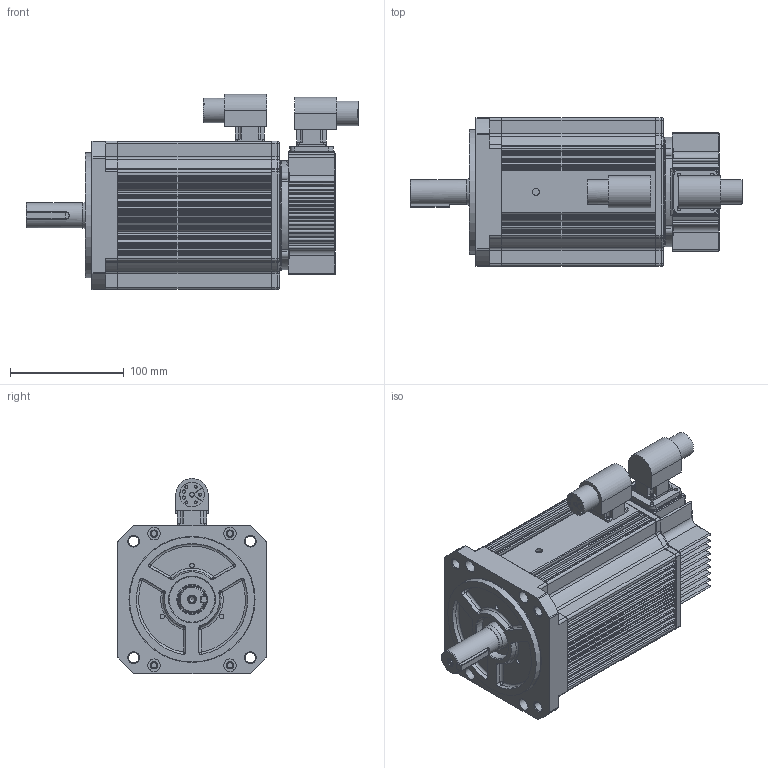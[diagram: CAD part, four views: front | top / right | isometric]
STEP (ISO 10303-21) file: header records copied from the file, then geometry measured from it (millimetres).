
FILE_DESCRIPTION( ( 'Unknown' ), '1' );
FILE_NAME( 'C:/Documents and Settings/leon/桌面/工作資料/3D型錄相關/3D組立圖(給子勤)/stp/DTSB13202B3NGAD0K & DTSB13202B-380V機種 & DTSB13302C3NGAD0K.stp', 'Unknown', ( 'Unknown' ), ( 'Unknown' ), 'PSStep 14.0', 'Unknown', ' ' );
FILE_SCHEMA( ( 'AUTOMOTIVE_DESIGN { 1 0 10303 214 1 1 1 1 }' ) );
Length unit declared in the file: millimetre
Products named in the file (14): 0S180JMB7BA0P-00; 0S331JMA0BP01-01; Assem1; 軍規(電源); 軍規(譯碼器); 1KW\X2\4EE54E0A752853F05EA\X0\; \X2\8ECD898F96326C34588A724\X0\; \X2\50C5524D7AEF542B937569FD8EF\X0\; \X2\51F8625867B\X0\; \X2\625867B\X0\; \X2\4FDD84CB96326C34588\X0\; \X2\4FDD84C\X0\; \X2\937\X0\
Assembly tree (13 placements, depth 3):
  Assem1
    軍規(電源)
    軍規(譯碼器)
    1KW\X2\4EE54E0A752853F05EA\X0\
    \X2\8ECD898F96326C34588A724\X0\
    \X2\50C5524D7AEF542B937569FD8EF\X0\
    \X2\51F8625867B\X0\
    \X2\51F8625867B\X0\
    \X2\625867B\X0\
    \X2\4FDD84CB96326C34588\X0\
    \X2\4FDD84C\X0\
    \X2\937\X0\
    0S180JMB7BA0P-00
      0S331JMA0BP01-01
Bounding box: 291.9 x 130.4 x 171.6 mm (x, y, z)
Volume: 3114871.9 mm3; surface area: 349504.5 mm2
Topology: 12 solids, 15 shells, 1405 faces, 3567 edges, 2242 vertices
Faces by surface type: cylinder 644, plane 510, torus 157, cone 59, sphere 28, bspline 7
Full cylindrical faces by diameter (mm): 1.5 x17, 1.926 x2, 1.985 x1, 2.013 x4, 2.459 x4, 2.5 x4, 2.585 x2, 2.611 x2, 2.621 x4, 2.637 x1, 2.7 x8, 2.834 x2, 3 x4, 3.25 x4, 3.5 x4, 3.746 x1, 4 x3, 5 x9, 6 x1, 6.2 x1, 6.5 x8, 9 x4, 11 x4, 20 x2, 21.5 x2, 22 x1, 24 x1, 24.9 x1, 40 x1, 52 x1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
Entity records: 53266 total; most frequent: CARTESIAN_POINT 7771, DIRECTION 7655, ORIENTED_EDGE 6676, EDGE_CURVE 3338, AXIS2_PLACEMENT_3D 3012, VERTEX_POINT 2183, EDGE_LOOP 1686, LINE 1631
